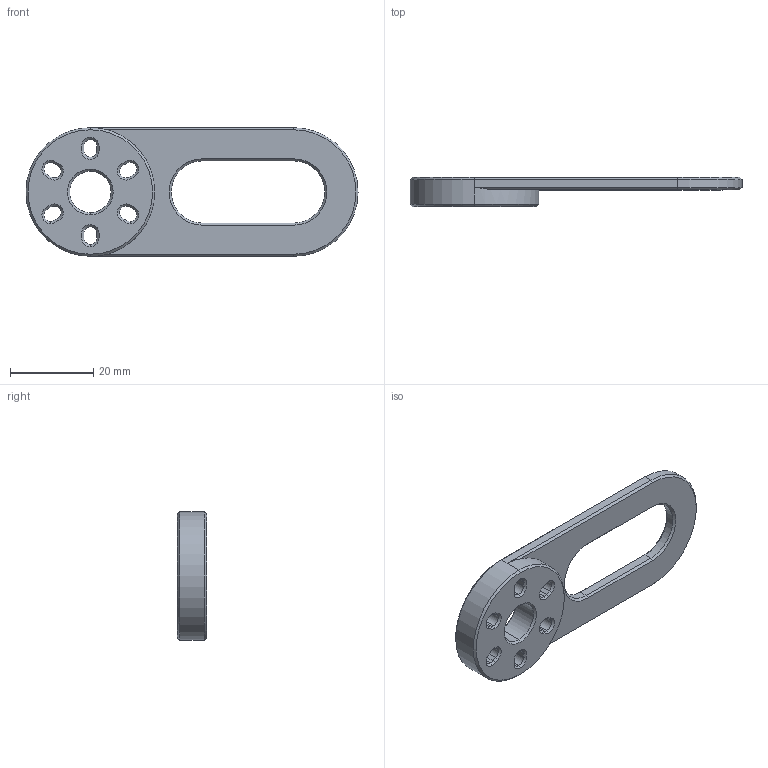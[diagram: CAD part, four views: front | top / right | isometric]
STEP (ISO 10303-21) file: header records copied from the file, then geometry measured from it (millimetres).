
FILE_DESCRIPTION (( 'STEP AP203' ), '1' );
FILE_NAME ('牷旋 2.1.STEP', '2025-06-04T09:01:25', ( '' ), ( '' ), 'SwSTEP 2.0', 'SolidWorks 2020', '' );
FILE_SCHEMA (( 'CONFIG_CONTROL_DESIGN' ));
Length unit declared in the file: millimetre
Products named in the file (1): 牷旋 2.1
Bounding box: 80 x 7 x 31 mm (x, y, z)
Volume: 6893.3 mm3; surface area: 5074.4 mm2
Topology: 1 solids, 1 shells, 161 faces, 377 edges, 224 vertices
Faces by surface type: plane 69, cone 49, cylinder 43
Entity records: 4639 total; most frequent: DIRECTION 834, CARTESIAN_POINT 769, ORIENTED_EDGE 754, EDGE_CURVE 377, AXIS2_PLACEMENT_3D 297, LINE 240, VECTOR 240, VERTEX_POINT 224
